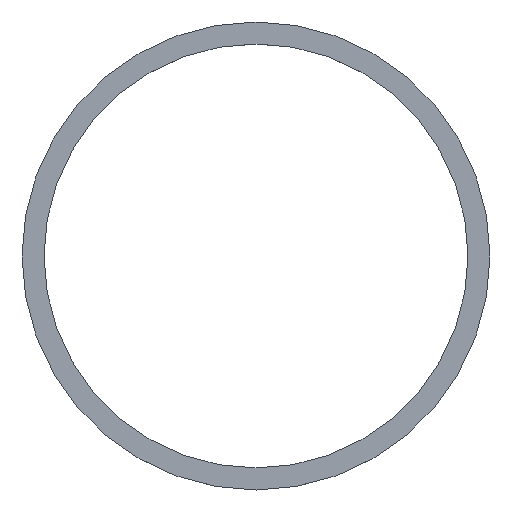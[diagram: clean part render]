
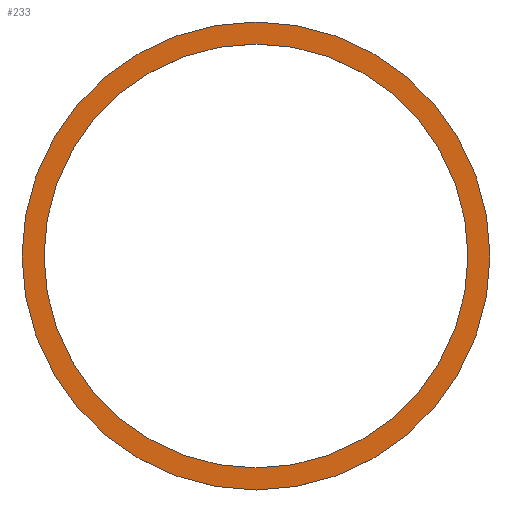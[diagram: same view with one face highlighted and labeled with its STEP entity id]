
A CAD part, top view. The second image highlights one B-rep face of the part: STEP entity #233.
In plain terms, the highlighted planar face has unit normal (0, 0, 1).
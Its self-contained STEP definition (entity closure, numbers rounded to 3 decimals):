
#54=FACE_BOUND('',#80,.T.);
#63=FACE_OUTER_BOUND('',#79,.T.);
#79=EDGE_LOOP('',(#183));
#80=EDGE_LOOP('',(#184));
#101=CIRCLE('',#277,101.);
#102=CIRCLE('',#278,91.5);
#122=VERTEX_POINT('',#425);
#123=VERTEX_POINT('',#427);
#146=EDGE_CURVE('',#122,#122,#101,.T.);
#147=EDGE_CURVE('',#123,#123,#102,.T.);
#183=ORIENTED_EDGE('',*,*,#146,.T.);
#184=ORIENTED_EDGE('',*,*,#147,.T.);
#223=PLANE('',#276);
#233=ADVANCED_FACE('',(#63,#54),#223,.T.);
#276=AXIS2_PLACEMENT_3D('',#424,#341,#342);
#277=AXIS2_PLACEMENT_3D('',#426,#343,#344);
#278=AXIS2_PLACEMENT_3D('',#428,#345,#346);
#341=DIRECTION('center_axis',(0.,0.,1.));
#342=DIRECTION('ref_axis',(1.,0.,0.));
#343=DIRECTION('center_axis',(0.,0.,1.));
#344=DIRECTION('ref_axis',(1.,0.,0.));
#345=DIRECTION('center_axis',(0.,0.,-1.));
#346=DIRECTION('ref_axis',(1.,0.,0.));
#424=CARTESIAN_POINT('Origin',(0.,0.,15.4));
#425=CARTESIAN_POINT('',(-101.,0.,15.4));
#426=CARTESIAN_POINT('Origin',(0.,0.,15.4));
#427=CARTESIAN_POINT('',(-91.5,0.,15.4));
#428=CARTESIAN_POINT('Origin',(0.,0.,15.4));
